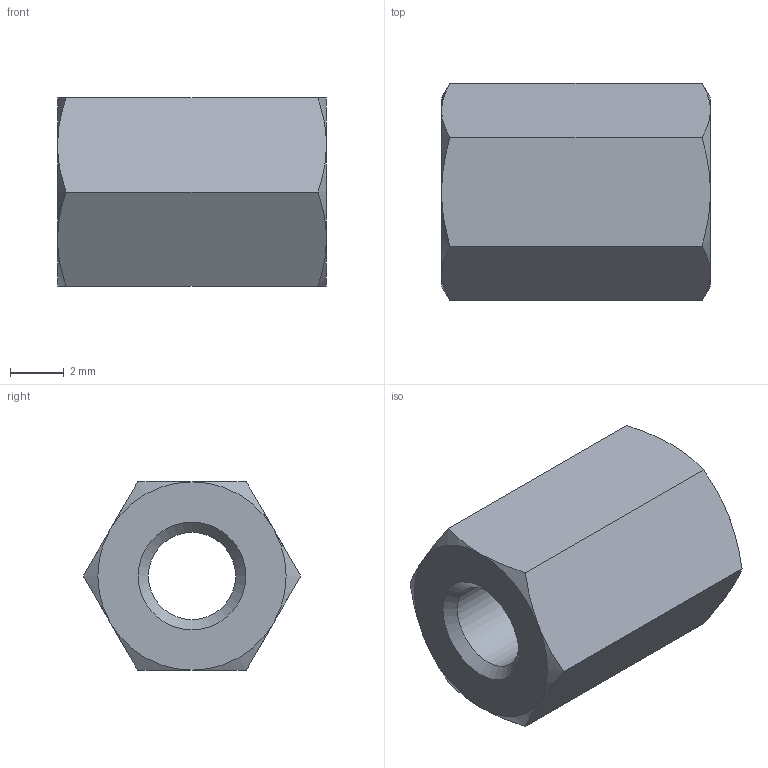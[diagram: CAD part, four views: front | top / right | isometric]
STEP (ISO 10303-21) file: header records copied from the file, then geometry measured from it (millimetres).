
FILE_DESCRIPTION( ( 'STEP AP203' ), '1' );
FILE_NAME( 'C:/Temp/Ganter_Step_05_03_2020/data/3_2/gn6220/gn6220_st/Spacer GN 6220-ST-M4-10-A.stp', '2020-03-13T05:42:23', ( 'License CC BY-ND 4.0' ), ( 'CADENAS' ), ' ', 'PARTsolutions', ' ' );
FILE_SCHEMA( ( 'CONFIG_CONTROL_DESIGN' ) );
Length unit declared in the file: millimetre
Products named in the file (1): _Spacer GN 6220-ST-M4-10-A
Bounding box: 10 x 8.08 x 7 mm (x, y, z)
Volume: 339.5 mm3; surface area: 404.6 mm2
Topology: 1 solids, 1 shells, 23 faces, 49 edges, 28 vertices
Faces by surface type: cone 14, plane 8, cylinder 1
Full cylindrical faces by diameter (mm): 3.242 x1
Entity records: 696 total; most frequent: CARTESIAN_POINT 202, ORIENTED_EDGE 92, DIRECTION 86, EDGE_CURVE 46, AXIS2_PLACEMENT_3D 40, EDGE_LOOP 28, VERTEX_POINT 28, FACE_OUTER_BOUND 24
